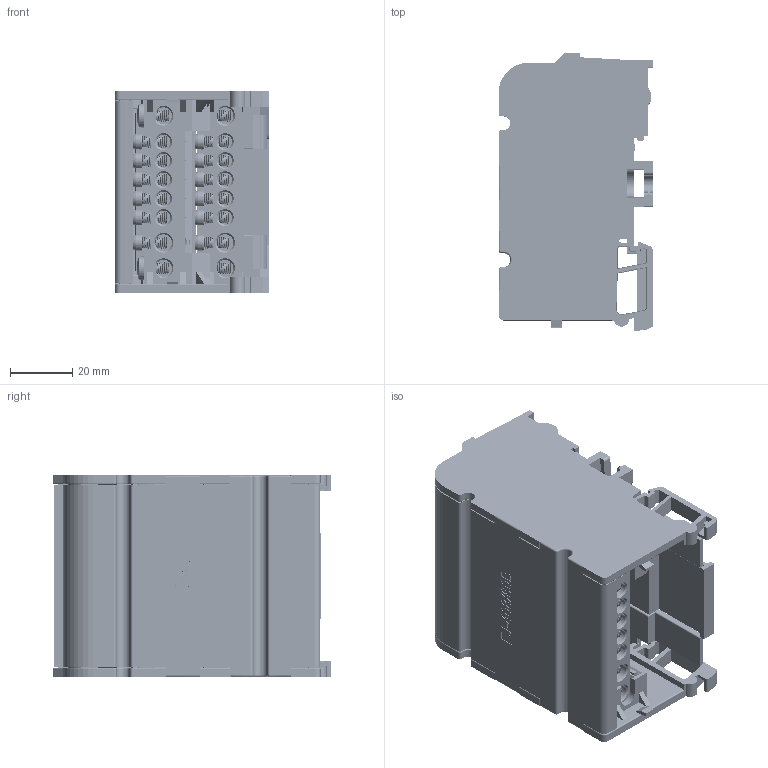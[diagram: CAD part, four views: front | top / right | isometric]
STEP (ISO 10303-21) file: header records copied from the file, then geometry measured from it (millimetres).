
FILE_DESCRIPTION(/* description */ (''),/* implementation_level */ '2;1');
FILE_NAME(/* name */ '2021.4.19.stp',/* time_stamp */ '2021-04-20T17:08:46+08:00',/* author */ (''),/* organization */ (''),/* preprocessor_version */ 'ST-DEVELOPER v16',/* originating_system */ 'SIEMENS PLM Software NX 10.0',/* authorisation */ '');
FILE_SCHEMA (('AUTOMOTIVE_DESIGN { 1 0 10303 214 3 1 1 1 }'));
Products named in the file (1): Admi0370B230uuod
Bounding box: 49.75 x 89.22 x 64.6 mm (x, y, z)
Volume: 67619.1 mm3; surface area: 82340.3 mm2
Topology: 44 solids, 44 shells, 2583 faces, 7028 edges, 4560 vertices
Faces by surface type: plane 1444, cylinder 416, bspline 402, cone 126, torus 118, sphere 46, extrusion 31
Full cylindrical faces by diameter (mm): 4.5 x20, 5 x24, 5.2 x8, 5.4 x12, 7.6 x8
Entity records: 321551 total; most frequent: CARTESIAN_POINT 261036, ORIENTED_EDGE 13484, DIRECTION 10395, EDGE_CURVE 6742, VERTEX_POINT 4472, VECTOR 3851, LINE 3820, AXIS2_PLACEMENT_3D 3272
